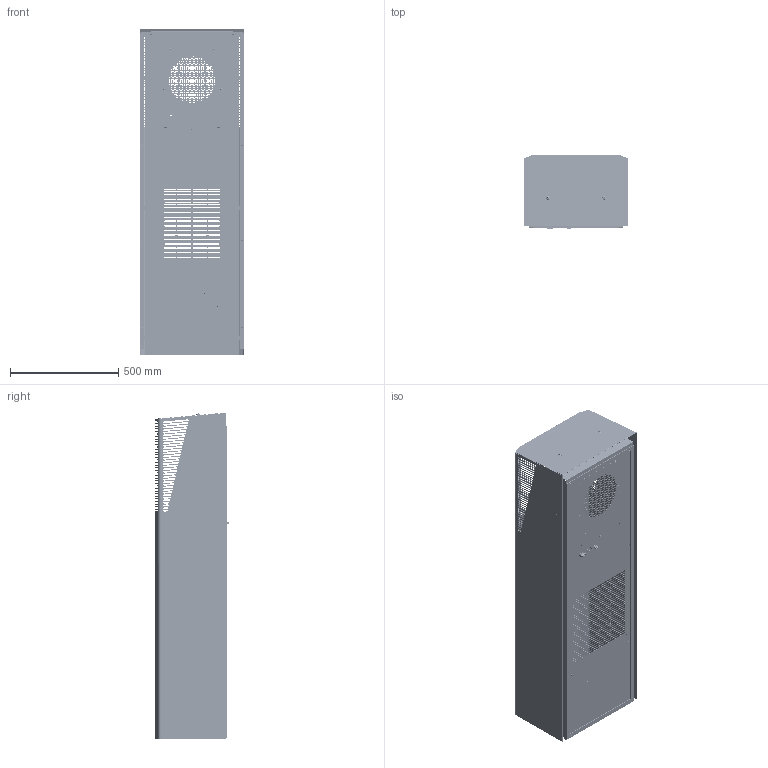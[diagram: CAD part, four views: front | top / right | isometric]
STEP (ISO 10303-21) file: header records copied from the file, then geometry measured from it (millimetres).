
FILE_DESCRIPTION (( 'STEP AP203' ), '1' );
FILE_NAME ('DTS 8841E Solid.STEP', '2021-02-18T05:41:26', ( '' ), ( '' ), 'SwSTEP 2.0', 'SolidWorks 2018', '' );
FILE_SCHEMA (( 'CONFIG_CONTROL_DESIGN' ));
Products named in the file (2): DTS 8841E Solid
Bounding box: 485 x 345.3 x 1509.89 mm (x, y, z)
Volume: 3407497 mm3; surface area: 6273943.3 mm2
Topology: 60 solids, 60 shells, 6417 faces, 17604 edges, 11480 vertices
Faces by surface type: plane 3018, cylinder 2775, bspline 322, cone 244, torus 52, sphere 6
Entity records: 225198 total; most frequent: CARTESIAN_POINT 55692, ORIENTED_EDGE 35136, DIRECTION 34796, EDGE_CURVE 17568, AXIS2_PLACEMENT_3D 12168, VERTEX_POINT 11480, LINE 10460, VECTOR 10460
